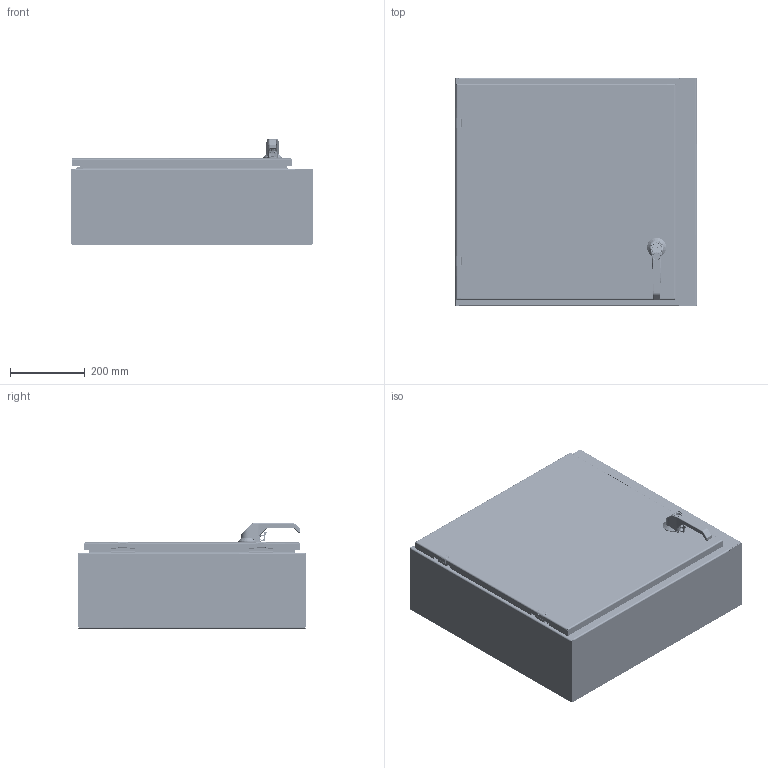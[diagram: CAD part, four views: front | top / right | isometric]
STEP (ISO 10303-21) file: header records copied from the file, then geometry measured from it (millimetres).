
FILE_DESCRIPTION((''),'2;1');
FILE_NAME('MODEL-315_ASM','2026-04-02T10:36:03',('mikek'),('SAGINAW CONTROL & ENGINEERING'),'CREO PARAMETRIC BY PTC INC, 2021284','CREO PARAMETRIC BY PTC INC, 2021284','');
FILE_SCHEMA(('AUTOMOTIVE_DESIGN { 1 0 10303 214 1 1 1 1 }'));
Length unit declared in the file: inch
Products named in the file (56): MODEL-315-BDY; MODEL-315-TP; MODEL-315-BTM; MODEL-315-DR; 100837; 100882; 111267; 125597; 100953_SCREW_MTG; 100953_PADLOCK_CATCH; 100953_SCREW_LARGE; 100953_INSERT_SHAFT; 100953_INSERT_PCH; 100953_GASKET; 100953_O-RING; 100953_BASE; 100953_SPRING; 100953_HANDLE; 100953_CAM_SHAFT; 100953_HANDLE_ASM; 100953_CAM_ADAPTER; 100953_EARTH_NUT; 100953_FLANGE_NUT; 100953_CAM_NUT; 100953_CP_INSERT; 100953_SPRING_CAM; 100953_TORSION_SPRING; 100953_SCREW_INSERT; 100953_ASM; 128142; 100030; 128142_ASM; MODEL-315-ROD-UPR; 128146; 128145; 128144; 102482; MODEL-315-ROD-UPR_ASM; 128143; 112504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
Assembly tree (84 placements, depth 5):
  MODEL-315_ASM
    MODEL-315-BDY
    MODEL-315-TP
    MODEL-315-BTM
    MODEL-315-DR-ASSY_ASM
      MODEL-315-DR
      100837  x6
      100882  x3
      111267
      125597
      100953_ASM
        100953_SCREW_MTG
        100953_PADLOCK_CATCH
        100953_SCREW_LARGE  x2
        100953_INSERT_SHAFT
        100953_INSERT_PCH
        100953_GASKET
        100953_O-RING
        100953_BASE
        100953_SPRING
        100953_HANDLE_ASM
          100953_HANDLE
          100953_CAM_SHAFT
        100953_CAM_ADAPTER
        100953_EARTH_NUT
        100953_FLANGE_NUT
        100953_CAM_NUT
        100953_CP_INSERT
        100953_SPRING_CAM
        100953_TORSION_SPRING
        100953_SCREW_INSERT
      128142_ASM
        128142
        100030  x2
      MODEL-315-ROD-UPR_ASM
        MODEL-315-ROD-UPR
        128146
        128145
        128144
        102482  x2
      128143
      112504
      MODEL-315-POUR-GSKT
      126392_ASM  x2
        126392
      126395  x2
      102483  x6
      101226  x2
      101389  x2
      102140  x2
      132757  x2
    100837  x2
    101653  x4
    122191
    SUBPANEL-SUBASSEMBLY_ASM
      SUBPANEL
      100904  x4
Bounding box: 644.52 x 609.6 x 281.53 mm (x, y, z)
Volume: 4280519.6 mm3; surface area: 3889333.6 mm2
Topology: 80 solids, 80 shells, 7266 faces, 18153 edges, 11025 vertices
Faces by surface type: plane 2490, cylinder 1905, bspline 1381, torus 644, cone 596, sphere 220, extrusion 30
Entity records: 325739 total; most frequent: CARTESIAN_POINT 138385, ORIENTED_EDGE 29462, DIRECTION 26285, PRESENTATION_STYLE_ASSIGNMENT 14791, STYLED_ITEM 14784, CURVE_STYLE 14731, EDGE_CURVE 14731, AXIS2_PLACEMENT_3D 9756
